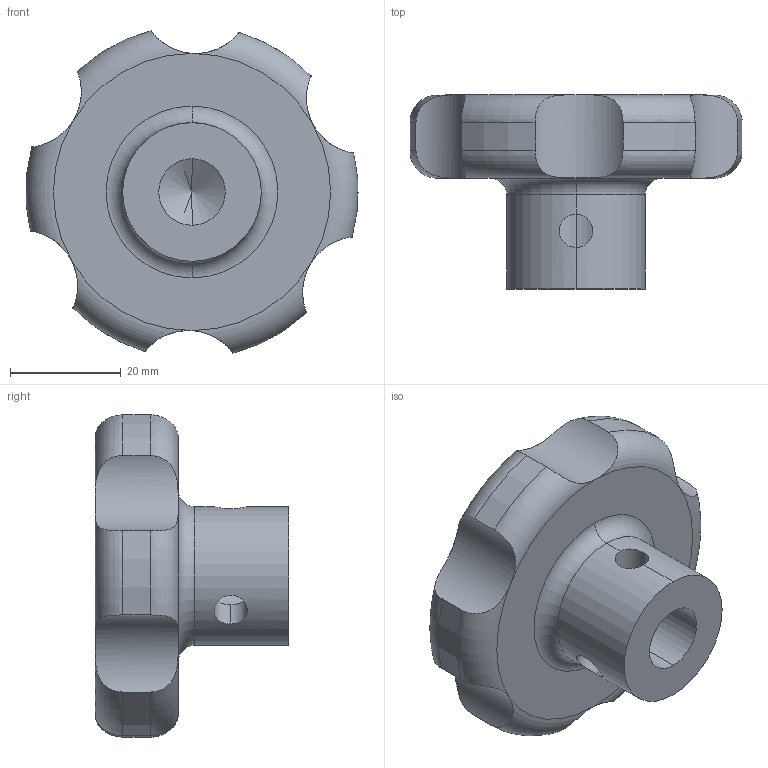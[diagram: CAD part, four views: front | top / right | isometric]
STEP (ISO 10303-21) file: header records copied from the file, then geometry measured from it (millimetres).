
FILE_DESCRIPTION (( 'STEP AP203' ), '1' );
FILE_NAME ('D09-160012.STEP', '2024-12-16T07:28:32', ( '' ), ( '' ), 'SwSTEP 2.0', 'SolidWorks 2021', '' );
FILE_SCHEMA (( 'CONFIG_CONTROL_DESIGN' ));
Length unit declared in the file: millimetre
Products named in the file (1): D09-160012
Bounding box: 59.91 x 35 x 58.15 mm (x, y, z)
Volume: 43646.8 mm3; surface area: 9876.2 mm2
Topology: 1 solids, 1 shells, 32 faces, 89 edges, 57 vertices
Faces by surface type: cylinder 21, torus 6, plane 3, cone 2
Entity records: 1876 total; most frequent: CARTESIAN_POINT 1009, ORIENTED_EDGE 174, DIRECTION 155, EDGE_CURVE 87, AXIS2_PLACEMENT_3D 65, VERTEX_POINT 57, EDGE_LOOP 36, FACE_OUTER_BOUND 32
